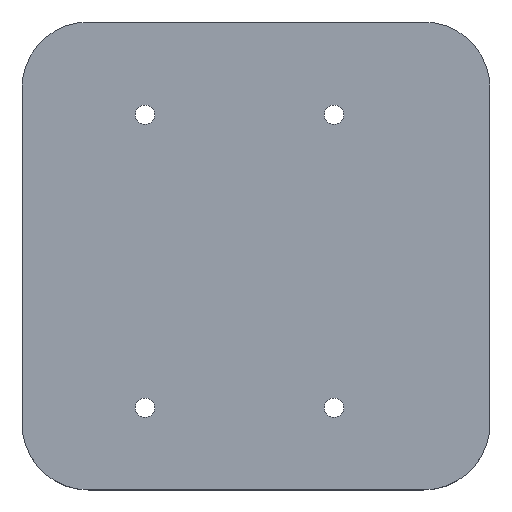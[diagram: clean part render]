
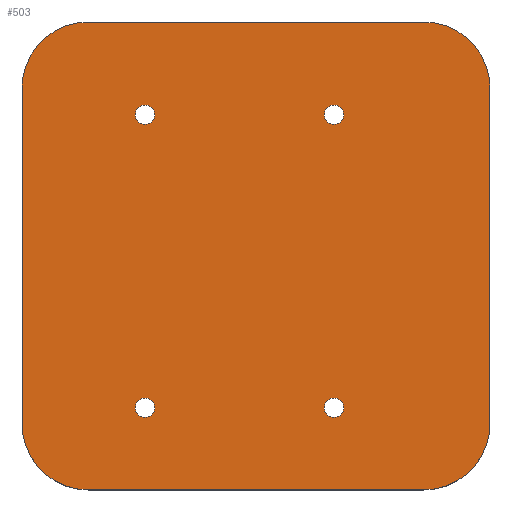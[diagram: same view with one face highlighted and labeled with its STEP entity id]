
A CAD part, top view. The second image highlights one B-rep face of the part: STEP entity #503.
In plain terms, the highlighted planar face has unit normal (0, 0, 1).
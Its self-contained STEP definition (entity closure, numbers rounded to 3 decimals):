
#24 = EDGE_CURVE ( 'NONE', #1541, #568, #701, .T. ) ;
#34 = EDGE_CURVE ( 'NONE', #1008, #88, #936, .T. ) ;
#43 = CARTESIAN_POINT ( 'NONE',  ( -59.518, -34.687, 3. ) ) ;
#44 = LINE ( 'NONE', #1646, #478 ) ;
#62 = CARTESIAN_POINT ( 'NONE',  ( -89.018, -44.497, 3. ) ) ;
#64 = EDGE_CURVE ( 'NONE', #532, #1046, #251, .T. ) ;
#68 = CIRCLE ( 'NONE', #896, 1.025 ) ;
#88 = VERTEX_POINT ( 'NONE', #438 ) ;
#108 = AXIS2_PLACEMENT_3D ( 'NONE', #954, #1470, #947 ) ;
#113 = CARTESIAN_POINT ( 'NONE',  ( -89.018, -75.497, 3. ) ) ;
#114 = AXIS2_PLACEMENT_3D ( 'NONE', #1040, #1162, #1699 ) ;
#115 = AXIS2_PLACEMENT_3D ( 'NONE', #1372, #1651, #1289 ) ;
#123 = VECTOR ( 'NONE', #1038, 1000. ) ;
#124 = ORIENTED_EDGE ( 'NONE', *, *, #1320, .F. ) ;
#150 = CARTESIAN_POINT ( 'NONE',  ( -95.018, -41.687, 3. ) ) ;
#154 = CIRCLE ( 'NONE', #1236, 7. ) ;
#180 = EDGE_CURVE ( 'NONE', #1046, #532, #711, .T. ) ;
#182 = EDGE_CURVE ( 'NONE', #1008, #411, #650, .T. ) ;
#184 = DIRECTION ( 'NONE',  ( 0., 0., 1. ) ) ;
#230 = CARTESIAN_POINT ( 'NONE',  ( -95.018, -84.187, 3. ) ) ;
#245 = DIRECTION ( 'NONE',  ( -1., 0., 0. ) ) ;
#249 = DIRECTION ( 'NONE',  ( 0., 0., 1. ) ) ;
#251 = CIRCLE ( 'NONE', #782, 1.025 ) ;
#264 = VERTEX_POINT ( 'NONE', #1260 ) ;
#292 = FACE_BOUND ( 'NONE', #1293, .T. ) ;
#305 = AXIS2_PLACEMENT_3D ( 'NONE', #501, #517, #1598 ) ;
#309 = AXIS2_PLACEMENT_3D ( 'NONE', #553, #573, #1656 ) ;
#314 = DIRECTION ( 'NONE',  ( 1., 0., 0. ) ) ;
#343 = AXIS2_PLACEMENT_3D ( 'NONE', #1568, #249, #520 ) ;
#371 = CARTESIAN_POINT ( 'NONE',  ( -95.018, -34.687, 3. ) ) ;
#394 = VERTEX_POINT ( 'NONE', #1459 ) ;
#408 = ORIENTED_EDGE ( 'NONE', *, *, #1035, .T. ) ;
#410 = CIRCLE ( 'NONE', #108, 1.025 ) ;
#411 = VERTEX_POINT ( 'NONE', #43 ) ;
#418 = CARTESIAN_POINT ( 'NONE',  ( -87.993, -44.497, 3. ) ) ;
#430 = EDGE_LOOP ( 'NONE', ( #1617, #762, #408, #484, #885, #660, #956, #942 ) ) ;
#437 = VERTEX_POINT ( 'NONE', #1201 ) ;
#438 = CARTESIAN_POINT ( 'NONE',  ( -102.018, -41.687, 3. ) ) ;
#478 = VECTOR ( 'NONE', #1232, 1000. ) ;
#484 = ORIENTED_EDGE ( 'NONE', *, *, #1558, .T. ) ;
#485 = LINE ( 'NONE', #1576, #1063 ) ;
#501 = CARTESIAN_POINT ( 'NONE',  ( -69.018, -44.497, 3. ) ) ;
#503 = ADVANCED_FACE ( 'NONE', ( #1625, #948, #292, #1641, #1363 ), #575, .T. ) ;
#513 = CARTESIAN_POINT ( 'NONE',  ( -70.043, -75.497, 3. ) ) ;
#517 = DIRECTION ( 'NONE',  ( 0., 0., 1. ) ) ;
#520 = DIRECTION ( 'NONE',  ( 1., 0., 0. ) ) ;
#532 = VERTEX_POINT ( 'NONE', #1370 ) ;
#549 = CIRCLE ( 'NONE', #1322, 1.025 ) ;
#552 = EDGE_CURVE ( 'NONE', #394, #1381, #68, .T. ) ;
#553 = CARTESIAN_POINT ( 'NONE',  ( -59.518, -77.187, 3. ) ) ;
#568 = VERTEX_POINT ( 'NONE', #1413 ) ;
#573 = DIRECTION ( 'NONE',  ( 0., 0., 1. ) ) ;
#575 = PLANE ( 'NONE',  #892 ) ;
#616 = CIRCLE ( 'NONE', #305, 1.025 ) ;
#618 = DIRECTION ( 'NONE',  ( 1., 0., 0. ) ) ;
#626 = CARTESIAN_POINT ( 'NONE',  ( -59.518, -41.687, 3. ) ) ;
#640 = CARTESIAN_POINT ( 'NONE',  ( -52.518, -41.687, 3. ) ) ;
#643 = CARTESIAN_POINT ( 'NONE',  ( -52.518, -41.687, 3. ) ) ;
#650 = LINE ( 'NONE', #371, #123 ) ;
#652 = DIRECTION ( 'NONE',  ( 1., 0., 0. ) ) ;
#660 = ORIENTED_EDGE ( 'NONE', *, *, #662, .F. ) ;
#662 = EDGE_CURVE ( 'NONE', #1274, #949, #1142, .T. ) ;
#670 = VERTEX_POINT ( 'NONE', #230 ) ;
#680 = VECTOR ( 'NONE', #888, 1000. ) ;
#701 = CIRCLE ( 'NONE', #115, 1.025 ) ;
#708 = CARTESIAN_POINT ( 'NONE',  ( -52.518, -77.187, 3. ) ) ;
#711 = CIRCLE ( 'NONE', #343, 1.025 ) ;
#762 = ORIENTED_EDGE ( 'NONE', *, *, #776, .T. ) ;
#763 = CARTESIAN_POINT ( 'NONE',  ( -59.518, -84.187, 3. ) ) ;
#772 = AXIS2_PLACEMENT_3D ( 'NONE', #626, #1147, #245 ) ;
#776 = EDGE_CURVE ( 'NONE', #88, #264, #44, .T. ) ;
#778 = CARTESIAN_POINT ( 'NONE',  ( -87.993, -75.497, 3. ) ) ;
#782 = AXIS2_PLACEMENT_3D ( 'NONE', #62, #184, #314 ) ;
#789 = ORIENTED_EDGE ( 'NONE', *, *, #64, .F. ) ;
#794 = EDGE_LOOP ( 'NONE', ( #1306, #1701 ) ) ;
#795 = EDGE_CURVE ( 'NONE', #1491, #949, #1364, .T. ) ;
#823 = DIRECTION ( 'NONE',  ( 0., 0., 1. ) ) ;
#885 = ORIENTED_EDGE ( 'NONE', *, *, #795, .T. ) ;
#888 = DIRECTION ( 'NONE',  ( 0., -1., 0. ) ) ;
#892 = AXIS2_PLACEMENT_3D ( 'NONE', #150, #823, #1490 ) ;
#896 = AXIS2_PLACEMENT_3D ( 'NONE', #113, #1677, #652 ) ;
#936 = CIRCLE ( 'NONE', #1072, 7. ) ;
#942 = ORIENTED_EDGE ( 'NONE', *, *, #182, .F. ) ;
#947 = DIRECTION ( 'NONE',  ( 1., 0., 0. ) ) ;
#948 = FACE_BOUND ( 'NONE', #1075, .T. ) ;
#949 = VERTEX_POINT ( 'NONE', #708 ) ;
#954 = CARTESIAN_POINT ( 'NONE',  ( -89.018, -75.497, 3. ) ) ;
#956 = ORIENTED_EDGE ( 'NONE', *, *, #1478, .F. ) ;
#959 = DIRECTION ( 'NONE',  ( 1., 0., 0. ) ) ;
#962 = DIRECTION ( 'NONE',  ( 0., 0., 1. ) ) ;
#981 = EDGE_CURVE ( 'NONE', #1381, #394, #410, .T. ) ;
#1007 = CARTESIAN_POINT ( 'NONE',  ( -95.018, -41.687, 3. ) ) ;
#1008 = VERTEX_POINT ( 'NONE', #1076 ) ;
#1035 = EDGE_CURVE ( 'NONE', #264, #670, #154, .T. ) ;
#1037 = CIRCLE ( 'NONE', #772, 7. ) ;
#1038 = DIRECTION ( 'NONE',  ( 1., 0., 0. ) ) ;
#1039 = ORIENTED_EDGE ( 'NONE', *, *, #180, .F. ) ;
#1040 = CARTESIAN_POINT ( 'NONE',  ( -69.018, -44.497, 3. ) ) ;
#1046 = VERTEX_POINT ( 'NONE', #418 ) ;
#1063 = VECTOR ( 'NONE', #618, 1000. ) ;
#1072 = AXIS2_PLACEMENT_3D ( 'NONE', #1007, #962, #1561 ) ;
#1075 = EDGE_LOOP ( 'NONE', ( #1252, #124 ) ) ;
#1076 = CARTESIAN_POINT ( 'NONE',  ( -95.018, -34.687, 3. ) ) ;
#1142 = LINE ( 'NONE', #640, #680 ) ;
#1147 = DIRECTION ( 'NONE',  ( 0., 0., -1. ) ) ;
#1162 = DIRECTION ( 'NONE',  ( 0., 0., 1. ) ) ;
#1166 = EDGE_CURVE ( 'NONE', #568, #1541, #549, .T. ) ;
#1201 = CARTESIAN_POINT ( 'NONE',  ( -70.043, -44.497, 3. ) ) ;
#1232 = DIRECTION ( 'NONE',  ( 0., -1., 0. ) ) ;
#1236 = AXIS2_PLACEMENT_3D ( 'NONE', #1613, #1489, #959 ) ;
#1243 = CIRCLE ( 'NONE', #114, 1.025 ) ;
#1252 = ORIENTED_EDGE ( 'NONE', *, *, #1294, .F. ) ;
#1260 = CARTESIAN_POINT ( 'NONE',  ( -102.018, -77.187, 3. ) ) ;
#1274 = VERTEX_POINT ( 'NONE', #643 ) ;
#1289 = DIRECTION ( 'NONE',  ( 1., 0., 0. ) ) ;
#1293 = EDGE_LOOP ( 'NONE', ( #1482, #1332 ) ) ;
#1294 = EDGE_CURVE ( 'NONE', #1345, #437, #616, .T. ) ;
#1306 = ORIENTED_EDGE ( 'NONE', *, *, #981, .F. ) ;
#1320 = EDGE_CURVE ( 'NONE', #437, #1345, #1243, .T. ) ;
#1322 = AXIS2_PLACEMENT_3D ( 'NONE', #1671, #1653, #1682 ) ;
#1332 = ORIENTED_EDGE ( 'NONE', *, *, #24, .F. ) ;
#1345 = VERTEX_POINT ( 'NONE', #1579 ) ;
#1363 = FACE_OUTER_BOUND ( 'NONE', #430, .T. ) ;
#1364 = CIRCLE ( 'NONE', #309, 7. ) ;
#1366 = EDGE_LOOP ( 'NONE', ( #1039, #789 ) ) ;
#1370 = CARTESIAN_POINT ( 'NONE',  ( -90.043, -44.497, 3. ) ) ;
#1372 = CARTESIAN_POINT ( 'NONE',  ( -69.018, -75.497, 3. ) ) ;
#1381 = VERTEX_POINT ( 'NONE', #778 ) ;
#1413 = CARTESIAN_POINT ( 'NONE',  ( -67.993, -75.497, 3. ) ) ;
#1459 = CARTESIAN_POINT ( 'NONE',  ( -90.043, -75.497, 3. ) ) ;
#1470 = DIRECTION ( 'NONE',  ( 0., 0., 1. ) ) ;
#1478 = EDGE_CURVE ( 'NONE', #411, #1274, #1037, .T. ) ;
#1482 = ORIENTED_EDGE ( 'NONE', *, *, #1166, .F. ) ;
#1489 = DIRECTION ( 'NONE',  ( 0., 0., 1. ) ) ;
#1490 = DIRECTION ( 'NONE',  ( 1., 0., 0. ) ) ;
#1491 = VERTEX_POINT ( 'NONE', #763 ) ;
#1541 = VERTEX_POINT ( 'NONE', #513 ) ;
#1558 = EDGE_CURVE ( 'NONE', #670, #1491, #485, .T. ) ;
#1561 = DIRECTION ( 'NONE',  ( 1., 0., 0. ) ) ;
#1568 = CARTESIAN_POINT ( 'NONE',  ( -89.018, -44.497, 3. ) ) ;
#1576 = CARTESIAN_POINT ( 'NONE',  ( -95.018, -84.187, 3. ) ) ;
#1579 = CARTESIAN_POINT ( 'NONE',  ( -67.993, -44.497, 3. ) ) ;
#1598 = DIRECTION ( 'NONE',  ( 1., 0., 0. ) ) ;
#1613 = CARTESIAN_POINT ( 'NONE',  ( -95.018, -77.187, 3. ) ) ;
#1617 = ORIENTED_EDGE ( 'NONE', *, *, #34, .T. ) ;
#1625 = FACE_BOUND ( 'NONE', #1366, .T. ) ;
#1641 = FACE_BOUND ( 'NONE', #794, .T. ) ;
#1646 = CARTESIAN_POINT ( 'NONE',  ( -102.018, -41.687, 3. ) ) ;
#1651 = DIRECTION ( 'NONE',  ( 0., 0., 1. ) ) ;
#1653 = DIRECTION ( 'NONE',  ( 0., 0., 1. ) ) ;
#1656 = DIRECTION ( 'NONE',  ( 1., 0., 0. ) ) ;
#1671 = CARTESIAN_POINT ( 'NONE',  ( -69.018, -75.497, 3. ) ) ;
#1677 = DIRECTION ( 'NONE',  ( 0., 0., 1. ) ) ;
#1682 = DIRECTION ( 'NONE',  ( 1., 0., 0. ) ) ;
#1699 = DIRECTION ( 'NONE',  ( 1., 0., 0. ) ) ;
#1701 = ORIENTED_EDGE ( 'NONE', *, *, #552, .F. ) ;
